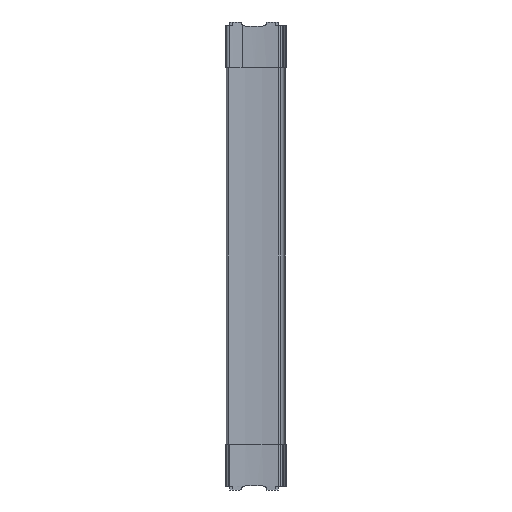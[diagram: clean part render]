
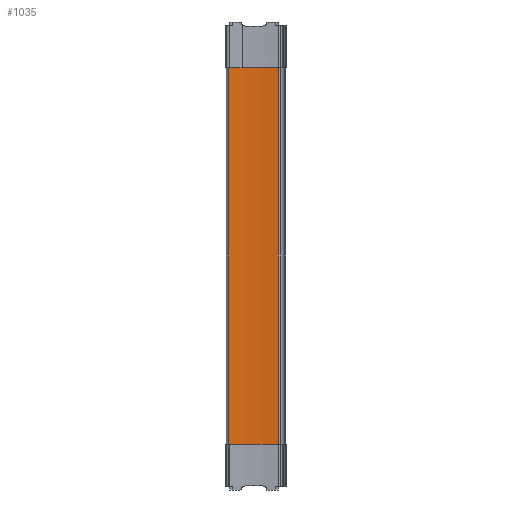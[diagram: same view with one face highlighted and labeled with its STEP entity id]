
A CAD part, left-side view. The second image highlights one B-rep face of the part: STEP entity #1035.
In plain terms, the highlighted cylindrical face has radius 250 mm (diameter 500 mm), a partial arc.
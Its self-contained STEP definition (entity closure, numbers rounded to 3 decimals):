
#207 = CYLINDRICAL_SURFACE ( 'NONE', #1150, 250. ) ;
#210 = FACE_OUTER_BOUND ( 'NONE', #730, .T. ) ;
#544 = ORIENTED_EDGE ( 'NONE', *, *, #3122, .F. ) ;
#545 = ORIENTED_EDGE ( 'NONE', *, *, #3178, .F. ) ;
#546 = ORIENTED_EDGE ( 'NONE', *, *, #3175, .F. ) ;
#547 = ORIENTED_EDGE ( 'NONE', *, *, #3245, .T. ) ;
#730 = EDGE_LOOP ( 'NONE', ( #544, #545, #546, #547 ) ) ;
#1035 = ADVANCED_FACE ( 'NONE', ( #210 ), #207, .F. ) ;
#1150 = AXIS2_PLACEMENT_3D ( 'NONE', #1734, #1735, #1736 ) ;
#1246 = AXIS2_PLACEMENT_3D ( 'NONE', #3750, #3759, #3760 ) ;
#1271 = AXIS2_PLACEMENT_3D ( 'NONE', #3889, #3898, #3899 ) ;
#1348 = VERTEX_POINT ( 'NONE', #1658 ) ;
#1358 = VERTEX_POINT ( 'NONE', #1655 ) ;
#1435 = CARTESIAN_POINT ( 'NONE',  ( -8.643, 8.331, 210.3 ) ) ;
#1452 = CARTESIAN_POINT ( 'NONE',  ( -8.643, 8.331, -210.3 ) ) ;
#1655 = CARTESIAN_POINT ( 'NONE',  ( -5.747, 63.571, -210.3 ) ) ;
#1658 = CARTESIAN_POINT ( 'NONE',  ( -5.747, 63.571, 210.3 ) ) ;
#1734 = CARTESIAN_POINT ( 'NONE',  ( -255.319, 48.963, 216.3 ) ) ;
#1735 = DIRECTION ( 'NONE',  ( 0., 0., -1. ) ) ;
#1736 = DIRECTION ( 'NONE',  ( -1., 0., 0. ) ) ;
#2270 = VERTEX_POINT ( 'NONE', #1452 ) ;
#2287 = VERTEX_POINT ( 'NONE', #1435 ) ;
#2330 = CIRCLE ( 'NONE', #1246, 250. ) ;
#3122 = EDGE_CURVE ( 'NONE', #2270, #1358, #2330, .T. ) ;
#3175 = EDGE_CURVE ( 'NONE', #1348, #2287, #4206, .T. ) ;
#3178 = EDGE_CURVE ( 'NONE', #2287, #2270, #4302, .T. ) ;
#3245 = EDGE_CURVE ( 'NONE', #1348, #1358, #4212, .T. ) ;
#3750 = CARTESIAN_POINT ( 'NONE',  ( -255.319, 48.963, -210.3 ) ) ;
#3759 = DIRECTION ( 'NONE',  ( 0., 0., 1. ) ) ;
#3760 = DIRECTION ( 'NONE',  ( -1., 0., 0. ) ) ;
#3889 = CARTESIAN_POINT ( 'NONE',  ( -255.319, 48.963, 210.3 ) ) ;
#3898 = DIRECTION ( 'NONE',  ( 0., 0., -1. ) ) ;
#3899 = DIRECTION ( 'NONE',  ( 1., 0., 0. ) ) ;
#3905 = CARTESIAN_POINT ( 'NONE',  ( -8.643, 8.331, 216.3 ) ) ;
#3906 = DIRECTION ( 'NONE',  ( 0., 0., -1. ) ) ;
#4074 = CARTESIAN_POINT ( 'NONE',  ( -5.747, 63.571, 216.3 ) ) ;
#4082 = DIRECTION ( 'NONE',  ( 0., 0., -1. ) ) ;
#4206 = CIRCLE ( 'NONE', #1271, 250. ) ;
#4208 = VECTOR ( 'NONE', #4082, 1000. ) ;
#4212 = LINE ( 'NONE', #4074, #4208 ) ;
#4302 = LINE ( 'NONE', #3905, #4307 ) ;
#4307 = VECTOR ( 'NONE', #3906, 1000. ) ;
